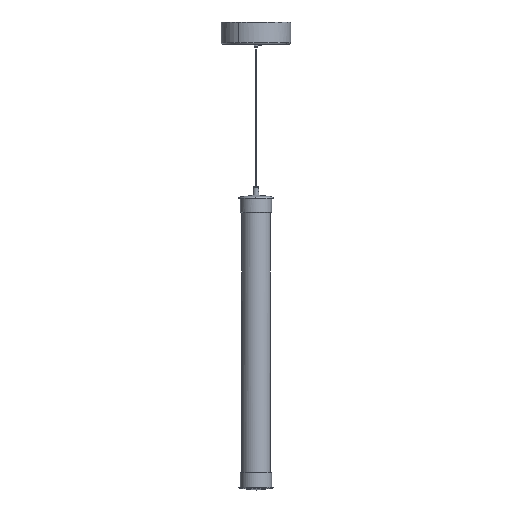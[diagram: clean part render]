
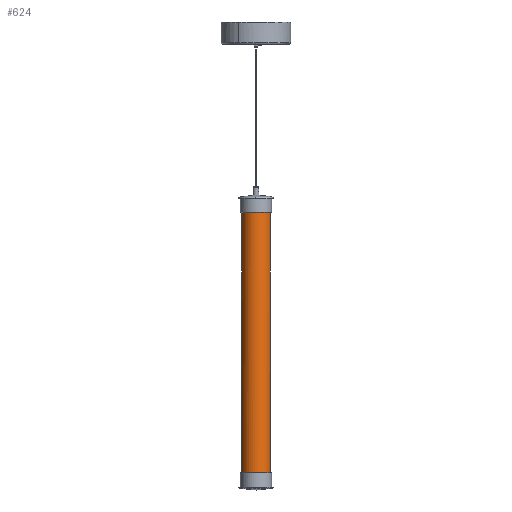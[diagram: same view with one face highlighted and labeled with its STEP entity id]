
A CAD part, front view. The second image highlights one B-rep face of the part: STEP entity #624.
In plain terms, the highlighted cylindrical face has radius 30 mm (diameter 60 mm), a partial arc.
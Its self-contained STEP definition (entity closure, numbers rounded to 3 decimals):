
#624=ADVANCED_FACE('',(#1249),#10030,.T.);
#1249=FACE_OUTER_BOUND('',#1902,.T.);
#1902=EDGE_LOOP('',(#3222,#3223,#3224,#3225));
#3222=ORIENTED_EDGE('',*,*,#5950,.T.);
#3223=ORIENTED_EDGE('',*,*,#5945,.T.);
#3224=ORIENTED_EDGE('',*,*,#5944,.T.);
#3225=ORIENTED_EDGE('',*,*,#5949,.F.);
#5944=EDGE_CURVE('',#8910,#8914,#7328,.T.);
#5945=EDGE_CURVE('',#8907,#8910,#8097,.T.);
#5949=EDGE_CURVE('',#8913,#8914,#8099,.T.);
#5950=EDGE_CURVE('',#8913,#8907,#7331,.T.);
#7328=(
BOUNDED_CURVE()
B_SPLINE_CURVE(2,(#13482,#13483,#13484,#13485,#13486),.UNSPECIFIED.,.F.,
 .F.)
B_SPLINE_CURVE_WITH_KNOTS((3,2,3),(0.,47.124,94.248),
 .UNSPECIFIED.)
CURVE()
GEOMETRIC_REPRESENTATION_ITEM()
RATIONAL_B_SPLINE_CURVE((1.,0.707,1.,0.707,1.))
REPRESENTATION_ITEM('')
);
#7331=(
BOUNDED_CURVE()
B_SPLINE_CURVE(2,(#13503,#13504,#13505,#13506,#13507),.UNSPECIFIED.,.F.,
 .F.)
B_SPLINE_CURVE_WITH_KNOTS((3,2,3),(94.248,141.372,188.496),
 .UNSPECIFIED.)
CURVE()
GEOMETRIC_REPRESENTATION_ITEM()
RATIONAL_B_SPLINE_CURVE((1.,0.707,1.,0.707,1.))
REPRESENTATION_ITEM('')
);
#8097=B_SPLINE_CURVE_WITH_KNOTS('',1,(#13487,#13488),.UNSPECIFIED.,.F.,
 .F.,(2,2),(57.22,628.22),.UNSPECIFIED.);
#8099=B_SPLINE_CURVE_WITH_KNOTS('',1,(#13501,#13502),.UNSPECIFIED.,.F.,
 .F.,(2,2),(57.22,628.22),.UNSPECIFIED.);
#8907=VERTEX_POINT('',#13457);
#8910=VERTEX_POINT('',#13460);
#8913=VERTEX_POINT('',#13463);
#8914=VERTEX_POINT('',#13464);
#10030=CYLINDRICAL_SURFACE('',#10390,30.);
#10390=AXIS2_PLACEMENT_3D('',#13456,#10898,$);
#10898=DIRECTION('',(0.,0.,-1.));
#13456=CARTESIAN_POINT('',(0.,0.,-675.564));
#13457=CARTESIAN_POINT('',(-30.,0.,-390.064));
#13460=CARTESIAN_POINT('',(-30.,0.,-961.064));
#13463=CARTESIAN_POINT('',(30.,0.,-390.064));
#13464=CARTESIAN_POINT('',(30.,0.,-961.064));
#13482=CARTESIAN_POINT('',(-30.,0.,-961.064));
#13483=CARTESIAN_POINT('',(-30.,-30.,-961.064));
#13484=CARTESIAN_POINT('',(0.,-30.,-961.064));
#13485=CARTESIAN_POINT('',(30.,-30.,-961.064));
#13486=CARTESIAN_POINT('',(30.,0.,-961.064));
#13487=CARTESIAN_POINT('',(-30.,0.,-390.064));
#13488=CARTESIAN_POINT('',(-30.,0.,-961.064));
#13501=CARTESIAN_POINT('',(30.,0.,-390.064));
#13502=CARTESIAN_POINT('',(30.,0.,-961.064));
#13503=CARTESIAN_POINT('',(30.,0.,-390.064));
#13504=CARTESIAN_POINT('',(30.,-30.,-390.064));
#13505=CARTESIAN_POINT('',(0.,-30.,-390.064));
#13506=CARTESIAN_POINT('',(-30.,-30.,-390.064));
#13507=CARTESIAN_POINT('',(-30.,0.,-390.064));
